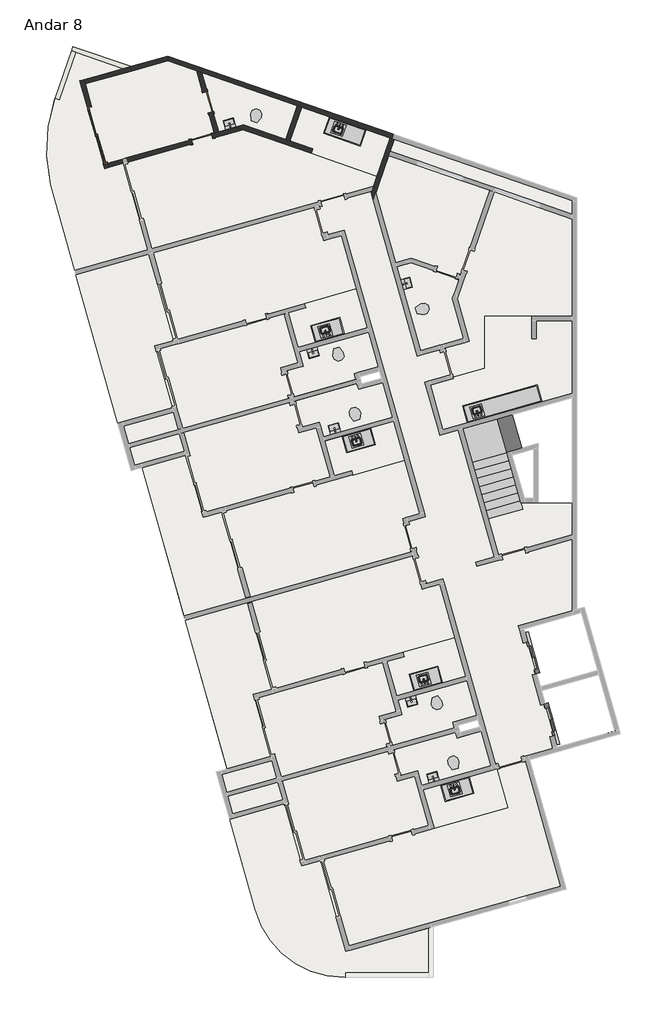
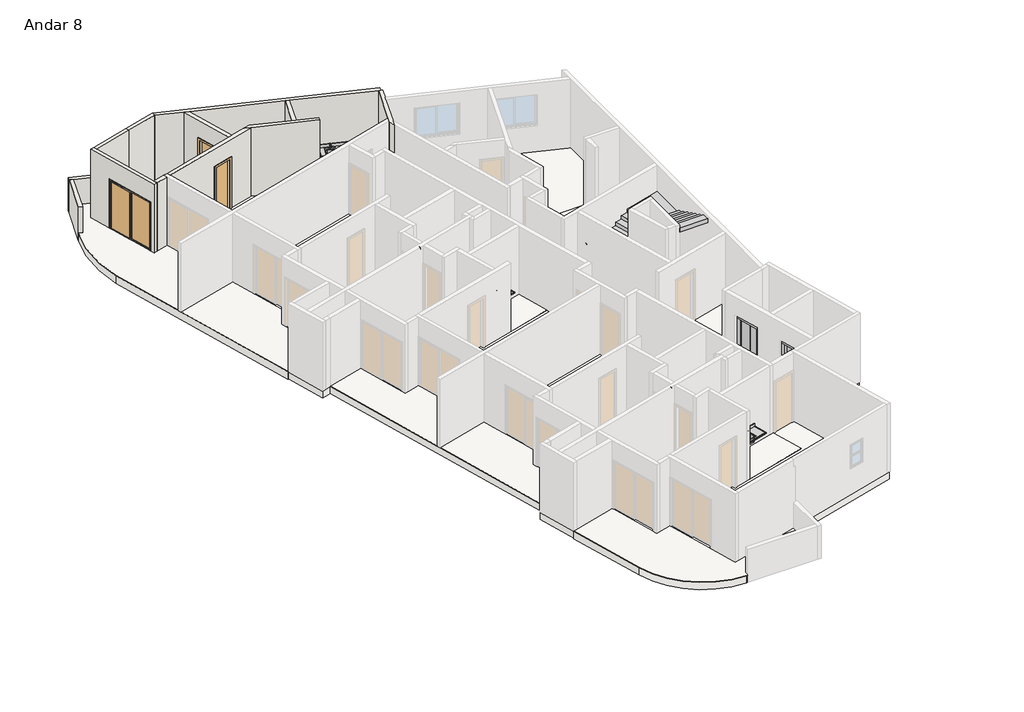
# One storey, part 3 of 3: 18 flow terminals, 18 slabs, 12 walls, 8 proxies, 3 doors, 1 stair flight.
"""IFC4 building model written with IfcOpenShell, lengths in millimetres."""

from ifc_helpers import new_model, si_unit, point, frame, frame_2d, origin, place, context, project, spatial, polyline, circle_curve, trimmed, segment, composite_curve, outline, extrude, faceted_brep, transform, mapped, element, save
from components import specialty_equipment_6c35da8b, specialty_equipment_77dfa124, rf_bancada_cozinha_rf_bancada_cozinha_340fef9f, rf_bancada_cozinha_rf_bancada_cozinha_cfb88ba1, rf_bancada_cozinha_rf_bancada_cozinha_2f873929, rf_bancada_cozinha_rf_bancada_cozinha_798ceddf, p3_70cm_ef4d15e3, p3_70cm_0a698c7c, p4_correr_200cm_eaaa0877, flow_terminal_cab7bae2, flow_terminal_3fb7dc42, flow_terminal_e42b9071, flow_terminal_c6e042c4, ap_01_creme_cr37_13e02e03, ap_01_creme_cr37_5ce6e54d

model = new_model("IFC4")

# Units and contexts
model_context = context("Model", 3, world=origin())
ifc_project = project(units=[si_unit("LENGTHUNIT", "METRE", prefix="MILLI")], contexts=[model_context])

# Site, building, storey
site = spatial("IfcSite", under=ifc_project)
building = spatial("IfcBuilding", under=site)
storey = spatial("IfcBuildingStorey", under=building, Name="Andar 8", Elevation=73950.0)

# Proxies
placement = place(None, origin())
specialty_equipment_shape = specialty_equipment_6c35da8b(model_context)
element("IfcBuildingElementProxy", 1, Name="Porta do elevador : Porta do elevador", ObjectType="Porta do elevador : Porta do elevador", at=placement, inside=storey, context=model_context, shape_type="MappedRepresentation", body=[
    mapped(specialty_equipment_shape, transform((-76594.4337486, 15747.4543727, 73950.0), x_axis=(0.27176796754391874, -0.9623628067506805, 0.0), y_axis=(0.9623628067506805, 0.27176796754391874, 0.0), z_axis=(0.0, 0.0, 1.0))),
])
specialty_equipment_2_shape = specialty_equipment_77dfa124(model_context)
element("IfcBuildingElementProxy", 2, Name="Porta do elevador : Porta do elevador", ObjectType="Porta do elevador : Porta do elevador", at=placement, inside=storey, context=model_context, shape_type="MappedRepresentation", body=[
    mapped(specialty_equipment_2_shape, transform((-75942.1906265, 13437.7836365, 73950.0), x_axis=(-0.27176796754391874, 0.9623628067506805, 0.0), y_axis=(-0.9623628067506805, -0.27176796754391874, 0.0), z_axis=(0.0, 0.0, 1.0))),
])
rf_bancada_cozinha_rf_bancada_cozinha_shape = rf_bancada_cozinha_rf_bancada_cozinha_340fef9f(model_context)
element("IfcBuildingElementProxy", 3, Name="RF_Bancada Cozinha : RF_Bancada Cozinha", ObjectType="RF_Bancada Cozinha : RF_Bancada Cozinha", at=placement, inside=storey, context=model_context, shape_type="MappedRepresentation", body=[
    mapped(rf_bancada_cozinha_rf_bancada_cozinha_shape, transform((-82760.548019, 26451.5820971, 74700.0), x_axis=(-0.9623628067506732, -0.27176796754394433, 0.0), y_axis=(0.27176796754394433, -0.9623628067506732, 0.0), z_axis=(0.0, 0.0, 1.0))),
])
element("IfcBuildingElementProxy", 4, Name="RF_Bancada Cozinha : RF_Bancada Cozinha", ObjectType="RF_Bancada Cozinha : RF_Bancada Cozinha", at=placement, inside=storey, context=model_context, shape_type="MappedRepresentation", body=[
    mapped(rf_bancada_cozinha_rf_bancada_cozinha_shape, transform((-79472.1556117, 14806.9921354, 74700.0), x_axis=(-0.962362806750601, -0.2717679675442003, 0.0), y_axis=(0.2717679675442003, -0.962362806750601, 0.0), z_axis=(0.0, 0.0, 1.0))),
])
rf_bancada_cozinha_rf_bancada_cozinha_2_shape = rf_bancada_cozinha_rf_bancada_cozinha_cfb88ba1(model_context)
element("IfcBuildingElementProxy", 5, Name="RF_Bancada Cozinha : RF_Bancada Cozinha", ObjectType="RF_Bancada Cozinha : RF_Bancada Cozinha", at=placement, inside=storey, context=model_context, shape_type="MappedRepresentation", body=[
    mapped(rf_bancada_cozinha_rf_bancada_cozinha_2_shape, transform((-81877.3021245, 23323.9029751, 74700.0), x_axis=(-0.9623628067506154, -0.27176796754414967, 0.0), y_axis=(0.27176796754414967, -0.9623628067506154, 0.0), z_axis=(0.0, 0.0, 1.0))),
])
element("IfcBuildingElementProxy", 6, Name="RF_Bancada Cozinha : RF_Bancada Cozinha", ObjectType="RF_Bancada Cozinha : RF_Bancada Cozinha", at=placement, inside=storey, context=model_context, shape_type="MappedRepresentation", body=[
    mapped(rf_bancada_cozinha_rf_bancada_cozinha_2_shape, transform((-78588.9097172, 11679.3130134, 74700.0), x_axis=(-0.9623628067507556, -0.27176796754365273, 0.0), y_axis=(0.27176796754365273, -0.9623628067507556, 0.0), z_axis=(0.0, 0.0, 1.0))),
])
rf_bancada_cozinha_rf_bancada_cozinha_3_shape = rf_bancada_cozinha_rf_bancada_cozinha_2f873929(model_context)
element("IfcBuildingElementProxy", 7, Name="RF_Bancada Cozinha : RF_Bancada Cozinha", ObjectType="RF_Bancada Cozinha : RF_Bancada Cozinha", at=placement, inside=storey, context=model_context, shape_type="MappedRepresentation", body=[
    mapped(rf_bancada_cozinha_rf_bancada_cozinha_3_shape, transform((-82030.0326121, 33293.9830661, 74700.0), x_axis=(-0.9449109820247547, 0.32732741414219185, 0.0), y_axis=(-0.32732741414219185, -0.9449109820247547, 0.0), z_axis=(0.0, 0.0, 1.0))),
])
rf_bancada_cozinha_rf_bancada_cozinha_4_shape = rf_bancada_cozinha_rf_bancada_cozinha_798ceddf(model_context)
element("IfcBuildingElementProxy", 8, Name="RF_Bancada Cozinha : RF_Bancada Cozinha", ObjectType="RF_Bancada Cozinha : RF_Bancada Cozinha", at=placement, inside=storey, context=model_context, shape_type="MappedRepresentation", body=[
    mapped(rf_bancada_cozinha_rf_bancada_cozinha_4_shape, transform((-76157.6622331, 24197.9763092, 74700.0), x_axis=(-0.9623628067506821, -0.27176796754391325, 0.0), y_axis=(0.27176796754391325, -0.9623628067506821, 0.0), z_axis=(0.0, 0.0, 1.0))),
])

# Doors
p3_70cm_shape = p3_70cm_ef4d15e3(model_context)
element("IfcDoor", 9, ObjectType="M_Folha única1 : P3 - 70CM", at=placement, inside=storey, context=model_context, shape_type="MappedRepresentation", body=[
    mapped(p3_70cm_shape, transform((-87513.806232, 32980.5300491, 73950.0), x_axis=(0.9623628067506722, 0.2717679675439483, 0.0), y_axis=(-0.2717679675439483, 0.9623628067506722, 0.0), z_axis=(0.0, 0.0, 1.0))),
])
p3_70cm_2_shape = p3_70cm_0a698c7c(model_context)
element("IfcDoor", 10, ObjectType="M_Folha única1 : P3 - 70CM", at=placement, inside=storey, context=model_context, shape_type="MappedRepresentation", body=[
    mapped(p3_70cm_2_shape, transform((-87314.304722, 34205.8663896, 73950.0), x_axis=(-0.2717679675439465, 0.9623628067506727, 0.0), y_axis=(-0.9623628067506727, -0.2717679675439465, 0.0), z_axis=(0.0, 0.0, 1.0))),
])
p4_correr_200cm_shape = p4_correr_200cm_eaaa0877(model_context)
element("IfcDoor", 11, ObjectType="Porta de correr dupla envidraçada sem revestimento : P4 - CORRER - 200CM", at=placement, inside=storey, context=model_context, shape_type="MappedRepresentation", body=[
    mapped(p4_correr_200cm_shape, transform((-91005.8131296, 33111.4415743, 73950.0), x_axis=(0.2717679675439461, -0.9623628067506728, 0.0), y_axis=(0.9623628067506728, 0.2717679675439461, 0.0), z_axis=(0.0, 0.0, 1.0))),
])

# Flow terminals
flow_terminal_shape = flow_terminal_cab7bae2(model_context)
element("IfcFlowTerminal", 12, ObjectType="RF_Pias : Pia da Bancada", at=placement, inside=storey, context=model_context, shape_type="MappedRepresentation", body=[
    mapped(flow_terminal_shape, transform((-83380.5102831, 26570.4992214, 73802.9), x_axis=(-0.9623628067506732, -0.27176796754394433, 0.0), y_axis=(0.27176796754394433, -0.9623628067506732, 0.0), z_axis=(0.0, 0.0, 1.0))),
])
element("IfcFlowTerminal", 13, ObjectType="RF_Pias : Pia da Bancada", at=placement, inside=storey, context=model_context, shape_type="MappedRepresentation", body=[
    mapped(flow_terminal_shape, transform((-80092.1178758, 14925.9092597, 73802.9), x_axis=(-0.962362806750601, -0.2717679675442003, 0.0), y_axis=(0.2717679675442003, -0.962362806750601, 0.0), z_axis=(0.0, 0.0, 1.0))),
])
element("IfcFlowTerminal", 14, ObjectType="RF_Pias : Pia da Bancada", at=placement, inside=storey, context=model_context, shape_type="MappedRepresentation", body=[
    mapped(flow_terminal_shape, transform((-78306.8185143, 23885.0542694, 73802.9), x_axis=(-0.9623628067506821, -0.27176796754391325, 0.0), y_axis=(0.27176796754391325, -0.9623628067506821, 0.0), z_axis=(0.0, 0.0, 1.0))),
])
flow_terminal_2_shape = flow_terminal_3fb7dc42(model_context)
element("IfcFlowTerminal", 15, ObjectType="Deca_Cuba de Apoio Retangular_L7300 : L.7300.17_Branco Gelo GE17", at=placement, inside=storey, context=model_context, shape_type="MappedRepresentation", body=[
    mapped(flow_terminal_2_shape, transform((-83090.0822283, 23308.7374016, 74700.0), x_axis=(-0.9623628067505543, -0.2717679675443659, 0.0), y_axis=(0.2717679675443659, -0.9623628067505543, 0.0), z_axis=(0.0, 0.0, 1.0))),
])
element("IfcFlowTerminal", 16, ObjectType="Deca_Cuba de Apoio Retangular_L7300 : L.7300.17_Branco Gelo GE17", at=placement, inside=storey, context=model_context, shape_type="MappedRepresentation", body=[
    mapped(flow_terminal_2_shape, transform((-79801.689821, 11664.1474399, 74700.0), x_axis=(-0.9623628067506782, -0.2717679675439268, 0.0), y_axis=(0.2717679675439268, -0.9623628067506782, 0.0), z_axis=(0.0, 0.0, 1.0))),
])
element("IfcFlowTerminal", 17, ObjectType="Deca_Cuba de Apoio Retangular_L7300 : L.7300.17_Branco Gelo GE17", at=placement, inside=storey, context=model_context, shape_type="MappedRepresentation", body=[
    mapped(flow_terminal_2_shape, transform((-80677.0991462, 28154.8020678, 74700.0), x_axis=(-0.2717679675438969, 0.9623628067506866, 0.0), y_axis=(-0.9623628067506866, -0.2717679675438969, 0.0), z_axis=(0.0, 0.0, 1.0))),
])
element("IfcFlowTerminal", 18, ObjectType="Deca_Cuba de Apoio Retangular_L7300 : L.7300.17_Branco Gelo GE17", at=placement, inside=storey, context=model_context, shape_type="MappedRepresentation", body=[
    mapped(flow_terminal_2_shape, transform((-86597.4204814, 33488.7004496, 74700.0), x_axis=(-0.9623628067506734, -0.27176796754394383, 0.0), y_axis=(0.27176796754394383, -0.9623628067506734, 0.0), z_axis=(0.0, 0.0, 1.0))),
])
flow_terminal_3_shape = flow_terminal_e42b9071(model_context)
element("IfcFlowTerminal", 19, ObjectType="Deca_Cuba de Apoio Retangular_L7300 : L.7300.17_Branco Gelo GE17", at=placement, inside=storey, context=model_context, shape_type="MappedRepresentation", body=[
    mapped(flow_terminal_3_shape, transform((-83802.1143033, 25830.1279553, 74700.0), x_axis=(-0.9623628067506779, -0.2717679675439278, 0.0), y_axis=(0.2717679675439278, -0.9623628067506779, 0.0), z_axis=(0.0, 0.0, 1.0))),
])
element("IfcFlowTerminal", 20, ObjectType="Deca_Cuba de Apoio Retangular_L7300 : L.7300.17_Branco Gelo GE17", at=placement, inside=storey, context=model_context, shape_type="MappedRepresentation", body=[
    mapped(flow_terminal_3_shape, transform((-80513.721896, 14185.5379936, 74700.0), x_axis=(-0.962362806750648, -0.27176796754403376, 0.0), y_axis=(0.27176796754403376, -0.962362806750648, 0.0), z_axis=(0.0, 0.0, 1.0))),
])
flow_terminal_4_shape = flow_terminal_c6e042c4(model_context)
element("IfcFlowTerminal", 21, ObjectType="RF_Pias : Pia da Bancada", at=placement, inside=storey, context=model_context, shape_type="MappedRepresentation", body=[
    mapped(flow_terminal_4_shape, transform((-82343.483233, 22898.2626745, 73802.9), x_axis=(-0.9623628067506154, -0.27176796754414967, 0.0), y_axis=(0.27176796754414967, -0.9623628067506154, 0.0), z_axis=(0.0, 0.0, 1.0))),
])
element("IfcFlowTerminal", 22, ObjectType="RF_Pias : Pia da Bancada", at=placement, inside=storey, context=model_context, shape_type="MappedRepresentation", body=[
    mapped(flow_terminal_4_shape, transform((-79055.0908257, 11253.6727129, 73802.9), x_axis=(-0.9623628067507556, -0.27176796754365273, 0.0), y_axis=(0.27176796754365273, -0.9623628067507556, 0.0), z_axis=(0.0, 0.0, 1.0))),
])
element("IfcFlowTerminal", 23, ObjectType="RF_Pias : Pia da Bancada", at=placement, inside=storey, context=model_context, shape_type="MappedRepresentation", body=[
    mapped(flow_terminal_4_shape, transform((-82939.3392028, 33309.5545572, 73802.9), x_axis=(-0.9449109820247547, 0.32732741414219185, 0.0), y_axis=(-0.32732741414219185, -0.9449109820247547, 0.0), z_axis=(0.0, 0.0, 1.0))),
])
ap_01_creme_cr37_shape = ap_01_creme_cr37_13e02e03(model_context)
element("IfcFlowTerminal", 24, ObjectType="Deca_Shared_Assento_P.900 : AP.01_Creme CR37", at=placement, inside=storey, context=model_context, shape_type="MappedRepresentation", body=[
    mapped(ap_01_creme_cr37_shape, transform((-83017.5301151, 25983.4740486, 74337.8723674), x_axis=(0.9623628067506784, 0.2717679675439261, 0.0), y_axis=(0.0, 0.0, 1.0), z_axis=(0.2717679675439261, -0.9623628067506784, 0.0))),
])
element("IfcFlowTerminal", 25, ObjectType="Deca_Shared_Assento_P.900 : AP.01_Creme CR37", at=placement, inside=storey, context=model_context, shape_type="MappedRepresentation", body=[
    mapped(ap_01_creme_cr37_shape, transform((-79729.1377078, 14338.8840869, 74337.8723674), x_axis=(0.962362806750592, 0.2717679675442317, 0.0), y_axis=(0.0, 0.0, 1.0), z_axis=(0.2717679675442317, -0.962362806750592, 0.0))),
])
element("IfcFlowTerminal", 26, ObjectType="Deca_Shared_Assento_P.900 : AP.01_Creme CR37", at=placement, inside=storey, context=model_context, shape_type="MappedRepresentation", body=[
    mapped(ap_01_creme_cr37_shape, transform((-80349.5164684, 27236.3600819, 74337.8723674), x_axis=(-0.271767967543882, 0.9623628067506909, 0.0), y_axis=(0.0, 0.0, 1.0), z_axis=(0.9623628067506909, 0.271767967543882, 0.0))),
])
element("IfcFlowTerminal", 27, ObjectType="Deca_Shared_Assento_P.900 : AP.01_Creme CR37", at=placement, inside=storey, context=model_context, shape_type="MappedRepresentation", body=[
    mapped(ap_01_creme_cr37_shape, transform((-85777.8760768, 33566.4131555, 74337.8723674), x_axis=(-0.9449109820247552, 0.3273274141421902, 0.0), y_axis=(0.0, 0.0, 1.0000000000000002), z_axis=(0.3273274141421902, 0.9449109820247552, 0.0))),
])
ap_01_creme_cr37_2_shape = ap_01_creme_cr37_5ce6e54d(model_context)
element("IfcFlowTerminal", 28, ObjectType="Deca_Shared_Assento_P.900 : AP.01_Creme CR37", at=placement, inside=storey, context=model_context, shape_type="MappedRepresentation", body=[
    mapped(ap_01_creme_cr37_2_shape, transform((-82341.1813229, 23588.4422577, 74337.8723674), x_axis=(0.9623628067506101, 0.27176796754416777, 0.0), y_axis=(0.0, 0.0, -1.0), z_axis=(-0.27176796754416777, 0.9623628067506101, 0.0))),
])
element("IfcFlowTerminal", 29, ObjectType="Deca_Shared_Assento_P.900 : AP.01_Creme CR37", at=placement, inside=storey, context=model_context, shape_type="MappedRepresentation", body=[
    mapped(ap_01_creme_cr37_2_shape, transform((-79052.7889156, 11943.852296, 74337.8723674), x_axis=(0.9623628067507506, 0.2717679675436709, 0.0), y_axis=(0.0, 0.0, -1.0000000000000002), z_axis=(-0.2717679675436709, 0.9623628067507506, 0.0))),
])

# Slabs
element("IfcSlab", 30, ObjectType="TZ_Piso de Áreas Molhadas", at=placement, inside=storey, context=model_context, shape_type="SweptSolid", body=[
    extrude(outline(composite_curve([segment(polyline([(-90765.4571774, 31984.341749), (-90143.7425806, 32159.9118263), (-89328.438678, 29272.823406), (-91766.0080564, 28584.4621444), (-92573.2320087, 31442.9384962)]), True, "CONTINUOUS"), segment(trimmed(circle_curve(frame_2d((-87414.5556743, 32622.5665107)), 5291.829908), [point((-92573.2320087, 31442.9384962))], [point((-92422.0860726, 34333.7366032))], False, "CARTESIAN"), True, "CONTINUOUS"), segment(polyline([(-92422.0860726, 34333.7366032), (-92280.2794148, 34284.6132387), (-91729.7010481, 35873.9929322), (-90151.0501028, 35327.1311202), (-91594.3494784, 34919.5483093), (-90765.4571774, 31984.341749)]), True, "CONTINUOUS")], self_intersect=False)), frame((0.0, 0.0, 73950.0), z_axis=(0.0, 0.0, 1.0), x_axis=(1.0, 0.0, 0.0)), (0.0, 0.0, 1.0), 20.0),
])
element("IfcSlab", 31, ObjectType="TZ_Piso de Áreas Molhadas", at=placement, inside=storey, context=model_context, shape_type="SweptSolid", body=[
    extrude(outline(polyline([(-88472.3695802, 26241.3805647), (-89094.084177, 26065.8104874), (-88509.7830468, 23996.7304529), (-90325.6378284, 23483.9392686), (-91725.2428613, 28440.1077234), (-89287.6734828, 29128.468985), (-88472.3695802, 26241.3805647)])), frame((0.0, 0.0, 73950.0), z_axis=(0.0, 0.0, 1.0), x_axis=(1.0, 0.0, 0.0)), (0.0, 0.0, 1.0), 20.0),
])
element("IfcSlab", 32, ObjectType="TZ_Piso de Áreas Molhadas", at=placement, inside=storey, context=model_context, shape_type="SweptSolid", body=[
    extrude(outline(polyline([(-86855.3501733, 20515.3218645), (-86040.0462707, 17628.2334443), (-88109.1263052, 17043.9323141), (-89508.731338, 22000.1007688), (-88061.3659003, 22408.8318218), (-87477.0647701, 20339.7517872), (-86855.3501733, 20515.3218645)])), frame((0.0, 0.0, 73950.0), z_axis=(0.0, 0.0, 1.0), x_axis=(1.0, 0.0, 0.0)), (0.0, 0.0, 1.0), 20.0),
])
element("IfcSlab", 33, ObjectType="TZ_Piso de Áreas Molhadas", at=placement, inside=storey, context=model_context, shape_type="SweptSolid", body=[
    extrude(outline(polyline([(-78926.5637691, 28284.9851582), (-79146.9727346, 27648.7205404), (-78771.1333302, 26317.8283554), (-80214.6775403, 25910.176404), (-81004.3851492, 28706.6252933), (-80530.2499593, 28840.5194505), (-78926.5637691, 28284.9851582)])), frame((0.0, 0.0, 73950.0), z_axis=(0.0, 0.0, 1.0), x_axis=(1.0, 0.0, 0.0)), (0.0, 0.0, 1.0), 20.0),
])
element("IfcSlab", 34, ObjectType="TZ_Piso de Áreas Molhadas", at=placement, inside=storey, context=model_context, shape_type="SweptSolid", body=[
    extrude(outline(polyline([(-78070.9150345, 27060.8243598), (-76493.6479314, 27060.8243598), (-76493.6479314, 26310.8243598), (-76343.6479314, 26310.8243598), (-76343.6479314, 26910.8243598), (-75147.8282189, 26910.8243598), (-75147.8282189, 24483.4871675), (-79467.3156296, 23263.6786855), (-79888.5559793, 24755.3410359), (-79127.7601479, 24970.1871785), (-79141.3485461, 25018.3053183), (-78070.9150345, 25320.5920836), (-78070.9150345, 27060.8243598)])), frame((0.0, 0.0, 73950.0), z_axis=(0.0, 0.0, 1.0), x_axis=(1.0, 0.0, 0.0)), (0.0, 0.0, 1.0), 20.0),
])
element("IfcSlab", 35, ObjectType="TZ_Piso de Áreas Molhadas", at=placement, inside=storey, context=model_context, shape_type="SweptSolid", body=[
    extrude(outline(polyline([(-84719.4810559, 32955.6762822), (-86137.8721095, 33447.0223292), (-86956.7711455, 33215.7680402), (-87515.4733556, 35194.1992432), (-84326.6881589, 34089.5694606), (-84719.4810559, 32955.6762822)])), frame((0.0, 0.0, 73950.0), z_axis=(0.0, 0.0, 1.0), x_axis=(1.0, 0.0, 0.0)), (0.0, 0.0, 1.0), 20.0),
])
element("IfcSlab", 36, ObjectType="TZ_Piso de Áreas Molhadas", at=placement, inside=storey, context=model_context, shape_type="SweptSolid", body=[
    extrude(outline(polyline([(-84577.7444086, 32906.57717), (-84184.9515116, 34040.4703485), (-81226.8582774, 33015.7547641), (-81668.7502865, 31740.1249383), (-83870.9147351, 32502.9785914), (-83821.815623, 32644.7152387), (-84577.7444086, 32906.57717)])), frame((0.0, 0.0, 73950.0), z_axis=(0.0, 0.0, 1.0), x_axis=(1.0, 0.0, 0.0)), (0.0, 0.0, 1.0), 20.0),
])
element("IfcSlab", 37, ObjectType="TZ_Piso de Áreas Molhadas", at=placement, inside=storey, context=model_context, shape_type="SweptSolid", body=[
    extrude(outline(polyline([(-81949.8925784, 26524.6420501), (-81623.7710174, 25369.806682), (-82432.1557751, 25141.5215893), (-82377.8021816, 24949.0490279), (-84456.5058441, 24362.030218), (-84701.0970149, 25228.1567441), (-84123.6793309, 25391.2175246), (-84259.5633146, 25872.398928), (-81949.8925784, 26524.6420501)])), frame((0.0, 0.0, 73950.0), z_axis=(0.0, 0.0, 1.0), x_axis=(1.0, 0.0, 0.0)), (0.0, 0.0, 1.0), 20.0),
])
element("IfcSlab", 38, ObjectType="TZ_Piso de Áreas Molhadas", at=placement, inside=storey, context=model_context, shape_type="SweptSolid", body=[
    extrude(outline(polyline([(-84089.7975819, 27479.0039186), (-82357.5445298, 27968.1862602), (-81990.6577736, 26668.9964711), (-84300.3285098, 26016.753349), (-84626.4500708, 27171.5887171), (-84049.0323868, 27334.6494976), (-84089.7975819, 27479.0039186)])), frame((0.0, 0.0, 73950.0), z_axis=(0.0, 0.0, 1.0), x_axis=(1.0, 0.0, 0.0)), (0.0, 0.0, 1.0), 20.0),
])
element("IfcSlab", 39, ObjectType="TZ_Piso de Áreas Molhadas", at=placement, inside=storey, context=model_context, shape_type="SweptSolid", body=[
    extrude(outline(polyline([(-84171.1494782, 23351.5492709), (-84415.740649, 24217.675797), (-82337.0369864, 24804.6946069), (-82282.6833929, 24612.2220455), (-81474.2986352, 24840.5071383), (-81148.1770742, 23685.6717702), (-83457.8478104, 23033.4286481), (-83593.7317942, 23514.6100514), (-84171.1494782, 23351.5492709)])), frame((0.0, 0.0, 73950.0), z_axis=(0.0, 0.0, 1.0), x_axis=(1.0, 0.0, 0.0)), (0.0, 0.0, 1.0), 20.0),
])
element("IfcSlab", 40, ObjectType="TZ_Piso de Áreas Molhadas", at=placement, inside=storey, context=model_context, shape_type="SweptSolid", body=[
    extrude(outline(composite_curve([segment(polyline([(-79945.4990038, 5119.4122055), (-82713.5540687, 5119.4122055), (-82713.5540687, 4969.4122055), (-82751.3896972, 4969.4122055)]), True, "CONTINUOUS"), segment(trimmed(circle_curve(frame_2d((-82751.3896972, 8069.4122055)), 3100.0), [point((-82751.3896972, 4969.4122055))], [point((-85734.7143981, 7226.9315061))], False, "CARTESIAN"), True, "CONTINUOUS"), segment(polyline([(-85734.7143981, 7226.9315061), (-86588.8282733, 10251.4506708), (-84772.9735093, 10764.2419177), (-84188.6722855, 8695.1618243), (-83566.957766, 8870.7319029), (-82710.8885369, 5839.2889958), (-79945.4990038, 6620.2256515), (-79945.4990038, 5119.4122055)]), True, "CONTINUOUS")], self_intersect=False)), frame((0.0, 0.0, 73950.0), z_axis=(0.0, 0.0, 1.0), x_axis=(1.0, 0.0, 0.0)), (0.0, 0.0, 1.0), 20.0),
])
element("IfcSlab", 41, ObjectType="TZ_Piso de Áreas Molhadas", at=placement, inside=storey, context=model_context, shape_type="SweptSolid", body=[
    extrude(outline(polyline([(-78185.906228, 13195.9171766), (-77859.7846669, 12041.0818085), (-80169.4554031, 11388.8386864), (-80305.3393869, 11870.0200898), (-80882.7570709, 11706.9593092), (-81127.3482417, 12573.0858353), (-79048.6445791, 13160.1046452), (-78994.2909856, 12967.6320839), (-78185.906228, 13195.9171766)])), frame((0.0, 0.0, 73950.0), z_axis=(0.0, 0.0, 1.0), x_axis=(1.0, 0.0, 0.0)), (0.0, 0.0, 1.0), 20.0),
])
element("IfcSlab", 42, ObjectType="TZ_Piso de Áreas Molhadas", at=placement, inside=storey, context=model_context, shape_type="SweptSolid", body=[
    extrude(outline(polyline([(-77307.7782946, 10638.3027935), (-79761.8034518, 9945.2944763), (-80128.690208, 11244.4842654), (-77674.6650508, 11937.4925826), (-77307.7782946, 10638.3027935)])), frame((0.0, 0.0, 73950.0), z_axis=(0.0, 0.0, 1.0), x_axis=(1.0, 0.0, 0.0)), (0.0, 0.0, 1.0), 20.0),
])
element("IfcSlab", 43, ObjectType="TZ_Piso de Áreas Molhadas", at=placement, inside=storey, context=model_context, shape_type="SweptSolid", body=[
    extrude(outline(polyline([(-81107.9410005, 23543.1910314), (-80740.5251229, 22242.1275601), (-82472.778175, 21752.9452185), (-82513.5433702, 21897.2996395), (-83090.9610542, 21734.238859), (-83418.0192411, 22888.8089065), (-81107.9410005, 23543.1910314)])), frame((0.0, 0.0, 73950.0), z_axis=(0.0, 0.0, 1.0), x_axis=(1.0, 0.0, 0.0)), (0.0, 0.0, 1.0), 20.0),
])
element("IfcSlab", 44, ObjectType="TZ_Piso de Áreas Molhadas", at=placement, inside=storey, context=model_context, shape_type="SweptSolid", body=[
    extrude(outline(polyline([(-85183.9771729, 14596.790603), (-85805.6917697, 14421.2205257), (-85221.3906395, 12352.1404912), (-86668.7560772, 11943.4094383), (-88068.36111, 16899.5778931), (-85999.2810755, 17483.8790233), (-85183.9771729, 14596.790603)])), frame((0.0, 0.0, 73950.0), z_axis=(0.0, 0.0, 1.0), x_axis=(1.0, 0.0, 0.0)), (0.0, 0.0, 1.0), 20.0),
])
element("IfcSlab", 45, ObjectType="TZ_Piso de Áreas Molhadas", at=placement, inside=storey, context=model_context, shape_type="SweptSolid", body=[
    extrude(outline(polyline([(-81412.7046076, 13583.5667824), (-80835.2869236, 13746.6275629), (-80971.1709074, 14227.8089663), (-78661.5001712, 14880.0520884), (-78335.3786101, 13725.2167203), (-79143.7633678, 13496.9316276), (-79089.4097743, 13304.4590662), (-81168.1134368, 12717.4402563), (-81412.7046076, 13583.5667824)])), frame((0.0, 0.0, 73950.0), z_axis=(0.0, 0.0, 1.0), x_axis=(1.0, 0.0, 0.0)), (0.0, 0.0, 1.0), 20.0),
])
element("IfcSlab", 46, ObjectType="TZ_Piso de Áreas Molhadas", at=placement, inside=storey, context=model_context, shape_type="SweptSolid", body=[
    extrude(outline(polyline([(-78701.7362448, 15022.5328272), (-81012.8731576, 14371.8995868), (-81338.0576635, 15526.9987554), (-80760.6399795, 15690.059536), (-80801.4051746, 15834.413957), (-79069.1521225, 16323.5962985), (-78701.7362448, 15022.5328272)])), frame((0.0, 0.0, 73950.0), z_axis=(0.0, 0.0, 1.0), x_axis=(1.0, 0.0, 0.0)), (0.0, 0.0, 1.0), 20.0),
])
element("IfcSlab", 47, ObjectType="TZ_Laje 30cm", at=placement, inside=storey, context=model_context, shape_type="SweptSolid", body=[
    extrude(outline(composite_curve([segment(polyline([(-82713.5540687, 4969.4122055), (-82751.3896972, 4969.4122055)]), True, "CONTINUOUS"), segment(trimmed(circle_curve(frame_2d((-82751.3896972, 8069.4122055)), 3100.0), [point((-82751.3896972, 4969.4122055))], [point((-85734.7143981, 7226.9315061))], False, "CARTESIAN"), True, "CONTINUOUS"), segment(polyline([(-85734.7143981, 7226.9315061), (-86588.8282747, 10251.4506758), (-86574.3928326, 10255.5271953), (-87018.7334595, 11828.9903844), (-86664.6795577, 11928.9739962), (-89512.8078575, 22014.5362109), (-89866.8617594, 21914.5525991), (-90311.2023863, 23488.0157882), (-90325.6378284, 23483.9392686), (-92573.2320087, 31442.9384962)]), True, "CONTINUOUS"), segment(trimmed(circle_curve(frame_2d((-87414.5556743, 32622.5665107)), 5291.829908), [point((-92573.2320087, 31442.9384962))], [point((-92426.4466323, 34320.9224218))], False, "CARTESIAN"), True, "CONTINUOUS"), segment(polyline([(-92426.4466323, 34320.9224218), (-92422.0160621, 34333.7123509), (-92403.1178425, 34327.1658026), (-91809.986912, 36039.3839237), (-89899.2062586, 35377.468778), (-88658.6666899, 35727.7929124), (-75017.8282189, 31002.4584964), (-75017.8282189, 17238.3098681), (-74750.7083414, 17313.7436086), (-73565.8000029, 13117.8417711), (-76592.4310301, 12263.1315132), (-75369.6745845, 7933.2050117), (-79815.4990038, 6677.7193903), (-79815.4990038, 4989.4122055), (-82713.5540687, 4989.4122055), (-82713.5540687, 4969.4122055)]), True, "CONTINUOUS")], self_intersect=False), holes=[polyline([(-81583.0058223, 25225.452261), (-82247.0361589, 25037.9323634), (-82179.094167, 24797.3416617), (-81515.0638304, 24984.8615593), (-81583.0058223, 25225.452261)]), polyline([(-78294.613415, 13580.8622993), (-78958.6437516, 13393.3424017), (-78890.7017597, 13152.7517), (-78226.6714231, 13340.2715976), (-78294.613415, 13580.8622993)]), polyline([(-74840.4856705, 17153.3066079), (-76760.3994699, 16611.1295126), (-76221.8794944, 14704.1660107), (-75646.150803, 12665.442005), (-73726.2370035, 13207.6191002), (-74270.7319215, 15135.7405865), (-74840.4856705, 17153.3066079)]), polyline([(-77952.9130698, 20291.1915783), (-76801.2963825, 20616.4041949), (-76858.5413412, 20819.1154254), (-75147.8282189, 20819.1154254), (-75147.8282189, 24343.0530162), (-78807.9060206, 23309.4595541), (-77952.9130698, 20291.1915783)])]), frame((0.0, 0.0, 73650.0), z_axis=(0.0, 0.0, 1.0), x_axis=(1.0, 0.0, 0.0)), (0.0, 0.0, 1.0), 300.0),
])

# Stair flight
element("IfcStairFlight", 48, ObjectType="Profundidade de 150mm", at=placement, inside=storey, context=model_context, shape_type="Brep", body=[
    faceted_brep([(-78029.0944782, 20560.1246789, 74088.0952381), (-77952.7808761, 20290.7249124, 74088.0952381), (-76802.2714069, 20616.6328483, 74088.0952381), (-76878.3664628, 20886.0945229, 74088.0952381), (-78029.0944782, 20560.1246789, 73950.0), (-77952.7808761, 20290.7249124, 73950.0), (-76802.2714069, 20616.6328483, 73950.0), (-76878.3664628, 20886.0945229, 73950.0), (-78105.4080802, 20829.5244453, 74226.1904762), (-78029.0944782, 20560.1246789, 74226.1904762), (-76878.3664628, 20886.0945229, 74226.1904762), (-76954.4615188, 21155.5561975, 74226.1904762), (-78105.4080802, 20829.5244453, 74058.939228), (-78045.2065482, 20617.0029783, 73950.0), (-76894.4323913, 20942.985893, 73950.0), (-76954.4615188, 21155.5561975, 74058.939228), (-78181.7216823, 21098.9242117, 74364.2857143), (-78105.4080802, 20829.5244453, 74364.2857143), (-76954.4615188, 21155.5561975, 74364.2857143), (-77030.5565747, 21425.017872, 74364.2857143), (-78181.7216823, 21098.9242117, 74197.0344661), (-77030.5565747, 21425.017872, 74197.0344661), (-78258.0352843, 21368.3239781, 74502.3809524), (-78181.7216823, 21098.9242117, 74502.3809524), (-77030.5565747, 21425.017872, 74502.3809524), (-77106.6516307, 21694.4795466, 74502.3809524), (-78258.0352843, 21368.3239781, 74335.1297042), (-77106.6516307, 21694.4795466, 74335.1297042), (-78334.3488864, 21637.7237445, 74640.4761905), (-78258.0352843, 21368.3239781, 74640.4761905), (-77106.6516307, 21694.4795466, 74640.4761905), (-77182.7466866, 21963.9412211, 74640.4761905), (-78334.3488864, 21637.7237445, 74473.2249423), (-77182.7466866, 21963.9412211, 74473.2249423), (-78410.6624885, 21907.1235109, 74778.5714286), (-78334.3488864, 21637.7237445, 74778.5714286), (-77182.7466866, 21963.9412211, 74778.5714286), (-77258.8417426, 22233.4028957, 74778.5714286), (-78410.6624885, 21907.1235109, 74611.3201804), (-77258.8417426, 22233.4028957, 74611.3201804), (-78486.9760905, 22176.5232773, 74916.6666667), (-78410.6624885, 21907.1235109, 74916.6666667), (-77258.8417426, 22233.4028957, 74916.6666667), (-77334.9367985, 22502.8645702, 74916.6666667), (-78486.9760905, 22176.5232773, 74749.4154185), (-77334.9367985, 22502.8645702, 74749.4154185), (-77650.6473278, 23620.8332322, 75054.7619048), (-78803.8582924, 23295.1703972, 75054.7619048), (-78572.8230038, 22479.5772253, 75054.7619048), (-78486.9760905, 22176.5232773, 75054.7619048), (-77334.9367985, 22502.8645702, 75054.7619048), (-77337.6544782, 22512.4881983, 75054.7619048), (-77650.6473278, 23620.8332322, 74904.7619048), (-78803.8582924, 23295.1703972, 74904.7619048), (-78572.8230038, 22479.5772253, 74904.7619048), (-77420.5378643, 22805.9881601, 74904.7619048), (-77337.6544782, 22512.4881983, 74904.7619048), (-77650.6473278, 23620.8332322, 75192.8571429), (-77337.6544782, 22512.4881983, 75192.8571429), (-77303.5536842, 22522.118146, 75192.8571429), (-77083.6709973, 22584.2122653, 75192.8571429), (-77396.6638468, 23692.5572992, 75192.8571429), (-77616.5465338, 23630.4631799, 75192.8571429), (-77396.6638468, 23692.5572992, 75019.0904432), (-77616.5465338, 23630.4631799, 74904.7619048), (-77303.5536842, 22522.118146, 74904.7619048), (-77083.6709973, 22584.2122653, 75019.0904432), (-77127.202261, 23768.6523301, 75330.952381), (-77396.6638468, 23692.5572992, 75330.952381), (-77083.6709973, 22584.2122653, 75330.952381), (-76814.2094114, 22660.3072962, 75330.952381), (-77127.202261, 23768.6523301, 75159.1976509), (-76814.2094114, 22660.3072962, 75159.1976509), (-76857.7406751, 23844.747361, 75469.047619), (-77127.202261, 23768.6523301, 75469.047619), (-76814.2094114, 22660.3072962, 75469.047619), (-76544.7478255, 22736.4023271, 75469.047619), (-76857.7406751, 23844.747361, 75299.3048586), (-76544.7478255, 22736.4023271, 75299.3048586), (-76588.2790892, 23920.842392, 75607.1428571), (-76857.7406751, 23844.747361, 75607.1428571), (-76544.7478255, 22736.4023271, 75607.1428571), (-76275.2862396, 22812.497358, 75607.1428571), (-76588.2790892, 23920.842392, 75439.4120663), (-75975.593386, 22897.1295956, 75595.2380952), (-76275.2862396, 22812.497358, 75595.2380952), (-75147.8282189, 22779.1154254, 75745.2380952), (-75147.8282189, 24327.6207947, 75745.2380952), (-76288.5862355, 24005.4746296, 75745.2380952), (-76588.2790892, 23920.842392, 75745.2380952), (-76275.2862396, 22812.497358, 75745.2380952), (-76275.2862396, 22779.1154254, 75745.2380952), (-75147.8282189, 22779.1154254, 75595.2380952), (-75147.8282189, 24327.6207947, 75595.2380952), (-76288.5862355, 24005.4746296, 75595.2380952), (-76275.2862396, 22779.1154254, 75595.2380952), (-75147.8282189, 22779.1154254, 75883.3333333), (-76275.2862396, 22779.1154254, 75883.3333333), (-76275.2862396, 22744.1370326, 75883.3333333), (-76275.2862396, 22499.1154254, 75883.3333333), (-75147.8282189, 22499.1154254, 75883.3333333), (-75147.8282189, 22744.1370326, 75883.3333333), (-75147.8282189, 22499.1154254, 75716.0820852), (-75147.8282189, 22744.1370326, 75595.2380952), (-76275.2862396, 22744.1370326, 75595.2380952), (-76275.2862396, 22499.1154254, 75716.0820852), (-75147.8282189, 22219.1154254, 76021.4285714), (-75147.8282189, 22499.1154254, 76021.4285714), (-76275.2862396, 22499.1154254, 76021.4285714), (-76275.2862396, 22219.1154254, 76021.4285714), (-75147.8282189, 22219.1154254, 75854.1773233), (-76275.2862396, 22219.1154254, 75854.1773233), (-75147.8282189, 21939.1154254, 76159.5238095), (-75147.8282189, 22219.1154254, 76159.5238095), (-76275.2862396, 22219.1154254, 76159.5238095), (-76275.2862396, 21939.1154254, 76159.5238095), (-75147.8282189, 21939.1154254, 75992.2725614), (-76275.2862396, 21939.1154254, 75992.2725614), (-75147.8282189, 21659.1154254, 76297.6190476), (-75147.8282189, 21939.1154254, 76297.6190476), (-76275.2862396, 21939.1154254, 76297.6190476), (-76275.2862396, 21659.1154254, 76297.6190476), (-75147.8282189, 21659.1154254, 76130.3677995), (-76275.2862396, 21659.1154254, 76130.3677995), (-75147.8282189, 21379.1154254, 76435.7142857), (-75147.8282189, 21659.1154254, 76435.7142857), (-76275.2862396, 21659.1154254, 76435.7142857), (-76275.2862396, 21379.1154254, 76435.7142857), (-75147.8282189, 21379.1154254, 76268.4630376), (-76275.2862396, 21379.1154254, 76268.4630376), (-75147.8282189, 21099.1154254, 76573.8095238), (-75147.8282189, 21379.1154254, 76573.8095238), (-76275.2862396, 21379.1154254, 76573.8095238), (-76275.2862396, 21099.1154254, 76573.8095238), (-75147.8282189, 21099.1154254, 76406.5582757), (-76275.2862396, 21099.1154254, 76406.5582757), (-75147.8282189, 20819.1154254, 76711.9047619), (-75147.8282189, 21099.1154254, 76711.9047619), (-76275.2862396, 21099.1154254, 76711.9047619), (-76275.2862396, 20819.1154254, 76711.9047619), (-75147.8282189, 20819.1154254, 76544.6535138), (-76275.2862396, 20819.1154254, 76544.6535138), (-76275.2862396, 23958.3777566, 75595.2380952)], [[[0, 1, 2, 3]], [[1, 0, 4, 5]], [[2, 1, 5, 6]], [[3, 2, 6, 7]], [[8, 9, 10, 11]], [[4, 0, 9, 8, 12, 13]], [[0, 3, 10, 9]], [[3, 7, 14, 15, 11, 10]], [[16, 17, 18, 19]], [[17, 16, 20, 12, 8]], [[8, 11, 18, 17]], [[19, 18, 11, 15, 21]], [[22, 23, 24, 25]], [[23, 22, 26, 20, 16]], [[16, 19, 24, 23]], [[25, 24, 19, 21, 27]], [[28, 29, 30, 31]], [[29, 28, 32, 26, 22]], [[22, 25, 30, 29]], [[31, 30, 25, 27, 33]], [[34, 35, 36, 37]], [[35, 34, 38, 32, 28]], [[28, 31, 36, 35]], [[37, 36, 31, 33, 39]], [[40, 41, 42, 43]], [[41, 40, 44, 38, 34]], [[34, 37, 42, 41]], [[43, 42, 37, 39, 45]], [[46, 47, 48, 49, 50, 51]], [[47, 46, 52, 53]], [[40, 49, 48, 47, 53, 54, 44]], [[40, 43, 50, 49]], [[51, 50, 43, 45, 55, 56]], [[57, 58, 59, 60, 61, 62]], [[46, 57, 62, 61, 63, 64, 52]], [[46, 51, 58, 57]], [[58, 51, 56, 65, 66, 60, 59]], [[67, 68, 69, 70]], [[68, 67, 71, 63, 61]], [[61, 60, 69, 68]], [[70, 69, 60, 66, 72]], [[73, 74, 75, 76]], [[74, 73, 77, 71, 67]], [[67, 70, 75, 74]], [[76, 75, 70, 72, 78]], [[79, 80, 81, 82]], [[80, 79, 83, 77, 73]], [[73, 76, 81, 80]], [[82, 81, 76, 78, 84, 85]], [[86, 87, 88, 89, 90, 91]], [[87, 86, 92, 93]], [[79, 89, 88, 87, 93, 94, 83]], [[79, 82, 90, 89]], [[91, 90, 82, 85, 95]], [[96, 97, 98, 99, 100, 101]], [[86, 96, 101, 100, 102, 103, 92]], [[86, 91, 97, 96]], [[97, 91, 95, 104, 105, 99, 98]], [[106, 107, 108, 109]], [[107, 106, 110, 102, 100]], [[100, 99, 108, 107]], [[109, 108, 99, 105, 111]], [[112, 113, 114, 115]], [[113, 112, 116, 110, 106]], [[106, 109, 114, 113]], [[115, 114, 109, 111, 117]], [[118, 119, 120, 121]], [[119, 118, 122, 116, 112]], [[112, 115, 120, 119]], [[121, 120, 115, 117, 123]], [[124, 125, 126, 127]], [[125, 124, 128, 122, 118]], [[118, 121, 126, 125]], [[127, 126, 121, 123, 129]], [[130, 131, 132, 133]], [[131, 130, 134, 128, 124]], [[124, 127, 132, 131]], [[133, 132, 127, 129, 135]], [[136, 137, 138, 139]], [[137, 136, 140, 134, 130]], [[130, 133, 138, 137]], [[139, 138, 133, 135, 141]], [[136, 139, 141, 140]], [[5, 4, 13, 14, 7, 6]], [[54, 55, 45, 39, 33, 27, 21, 15, 14, 13, 12, 20, 26, 32, 38, 44]], [[55, 54, 53, 52, 64, 65, 56]], [[65, 64, 63, 71, 77, 83, 94, 142, 84, 78, 72, 66]], [[142, 94, 93, 92, 103, 104, 95, 85, 84]], [[104, 103, 102, 110, 116, 122, 128, 134, 140, 141, 135, 129, 123, 117, 111, 105]]]),
])

# Walls
element("IfcWall", 49, ObjectType="Básica .15 - Externa", at=placement, inside=storey, context=model_context, shape_type="Brep", body=[
    faceted_brep([(-88662.6343714, 35591.588263, 73950.0), (-87688.240739, 35254.0477389, 73950.0), (-87515.4733556, 35194.1992432, 73950.0), (-84326.6881589, 34089.5694606, 73950.0), (-84184.9515116, 34040.4703485, 73950.0), (-81226.8582774, 33015.7547641, 73950.0), (-81156.3583355, 32991.3328194, 73950.0), (-81156.3583355, 32991.3328194, 75250.0), (-81085.1216301, 32966.655652, 75250.0), (-81085.1216301, 32966.655652, 76550.0), (-81156.3583355, 32991.3328194, 76550.0), (-81156.3583355, 32991.3328194, 76850.0), (-81226.8582774, 33015.7547641, 76850.0), (-84184.9515116, 34040.4703485, 76850.0), (-84326.6881589, 34089.5694606, 76850.0), (-87515.4733556, 35194.1992432, 76850.0), (-87688.240739, 35254.0477389, 76850.0), (-88662.6343714, 35591.588263, 76850.0), (-88658.0562773, 35748.7474739, 73950.0), (-88658.0562773, 35748.7474739, 76850.0), (-81107.2592234, 33133.0694667, 76850.0), (-81107.2592234, 33133.0694667, 76550.0), (-81036.022518, 33108.3922993, 76550.0), (-81036.022518, 33108.3922993, 75250.0), (-81107.2592234, 33133.0694667, 75250.0), (-81107.2592234, 33133.0694667, 73950.0)], [[[0, 1, 2, 3, 4, 5, 6, 7, 8, 9, 10, 11, 12, 13, 14, 15, 16, 17]], [[18, 19, 20, 21, 22, 23, 24, 25]], [[6, 5, 4, 3, 2, 1, 0, 18, 25]], [[17, 16, 15, 14, 13, 12, 11, 20, 19]], [[0, 17, 19, 18]], [[7, 6, 25, 24]], [[23, 8, 7, 24]], [[11, 10, 21, 20]], [[21, 10, 9, 22]], [[9, 8, 23, 22]]]),
])
element("IfcWall", 50, ObjectType="Básica .15 -  Interna", at=placement, inside=storey, context=model_context, shape_type="Brep", body=[
    faceted_brep([(-81789.2550074, 30934.0017027, 73950.0), (-81703.3880158, 31181.8778654, 73950.0), (-81272.8781344, 32424.6503839, 73950.0), (-81223.7790223, 32566.3870312, 73950.0), (-81085.1216301, 32966.655652, 73950.0), (-81085.1216301, 32966.655652, 75250.0), (-81085.1216301, 32966.655652, 76550.0), (-81085.1216301, 32966.655652, 76850.0), (-81223.7790223, 32566.3870312, 76850.0), (-81272.8781344, 32424.6503839, 76850.0), (-81703.3880158, 31181.8778654, 76850.0), (-81789.2550074, 30934.0017027, 76850.0), (-81860.5472267, 31186.4559595, 73950.0), (-81860.5472267, 31186.4559595, 76850.0), (-81845.4155775, 31230.1371819, 76850.0), (-81785.5670817, 31402.9045654, 76850.0), (-81226.8582774, 33015.7547641, 76850.0), (-81226.8582774, 33015.7547641, 73950.0), (-81785.5670817, 31402.9045654, 73950.0), (-81845.4155775, 31230.1371819, 73950.0), (-81156.3583355, 32991.3328194, 73950.0), (-81156.3583355, 32991.3328194, 76850.0)], [[[0, 1, 2, 3, 4, 5, 6, 7, 8, 9, 10, 11]], [[12, 13, 14, 15, 16, 17, 18, 19]], [[4, 3, 2, 1, 0, 12, 19, 18, 17, 20]], [[11, 10, 9, 8, 7, 21, 16, 15, 14, 13]], [[0, 11, 13, 12]], [[4, 20, 17, 16, 21, 7, 6, 5]]]),
])
element("IfcWall", 51, ObjectType="Básica .15 -  Interna", at=placement, inside=storey, context=model_context, shape_type="Brep", body=[
    faceted_brep([(-91449.9950574, 34960.3135045, 76850.0), (-91409.2298622, 34815.9590835, 76850.0), (-90661.8679515, 32169.4613651, 76850.0), (-90621.1027564, 32025.1069441, 76850.0), (-90621.1027564, 32025.1069441, 73950.0), (-90661.8679515, 32169.4613651, 73950.0), (-90661.8679515, 32169.4613651, 76050.0), (-91205.4038866, 34094.1869786, 76050.0), (-91205.4038866, 34094.1869786, 73950.0), (-91409.2298622, 34815.9590835, 73950.0), (-91449.9950574, 34960.3135045, 73950.0), (-90765.4571774, 31984.341749, 76850.0), (-91594.3494784, 34919.5483093, 76850.0), (-91594.3494784, 34919.5483093, 73950.0), (-91349.7583076, 34053.4217835, 73950.0), (-91349.7583076, 34053.4217835, 76050.0), (-90806.2223725, 32128.69617, 76050.0), (-90806.2223725, 32128.69617, 73950.0), (-90765.4571774, 31984.341749, 73950.0)], [[[0, 1, 2, 3, 4, 5, 6, 7, 8, 9, 10]], [[11, 12, 13, 14, 15, 16, 17, 18]], [[4, 18, 17, 5]], [[13, 10, 9, 8, 14]], [[3, 2, 1, 0, 12, 11]], [[4, 3, 11, 18]], [[16, 6, 5, 17]], [[6, 16, 15, 7]], [[7, 15, 14, 8]], [[0, 10, 13, 12]]]),
])
element("IfcWall", 52, ObjectType="Básica .15 - Externa", at=placement, inside=storey, context=model_context, shape_type="Brep", body=[
    faceted_brep([(-91871.4376954, 35923.0920443, 73650.0), (-91729.7010481, 35873.9929322, 73650.0), (-90151.0501028, 35327.1311202, 73650.0), (-90151.0501028, 35327.1311202, 75050.0), (-91729.7010481, 35873.9929322, 75050.0), (-91871.4376954, 35923.0920443, 75050.0), (-91822.3385833, 36064.8286916, 73650.0), (-91822.3385833, 36064.8286916, 75050.0), (-89898.595846, 35398.4233395, 75050.0), (-89898.595846, 35398.4233395, 73650.0)], [[[0, 1, 2, 3, 4, 5]], [[6, 7, 8, 9]], [[2, 1, 0, 6, 9]], [[5, 4, 3, 8, 7]], [[0, 5, 7, 6]], [[3, 2, 9, 8]]]),
])
element("IfcWall", 53, ObjectType="Básica .15 - Externa", at=placement, inside=storey, context=model_context, shape_type="SweptSolid", body=[
    extrude(outline(polyline([(-91729.7010481, 35873.9929322), (-92280.2794148, 34284.6132387), (-92422.0160621, 34333.7123509), (-91871.4376954, 35923.0920443), (-91729.7010481, 35873.9929322)])), frame((0.0, 0.0, 73650.0), z_axis=(0.0, 0.0, 1.0), x_axis=(1.0, 0.0, 0.0)), (0.0, 0.0, 1.0), 1400.0),
])
element("IfcWall", 54, ObjectType="Básica .15 - Externa", at=placement, inside=storey, context=model_context, shape_type="SweptSolid", body=[
    extrude(outline(polyline([(-89921.2674906, 35392.0209445), (-88658.0562773, 35748.7474739), (-88662.6343714, 35591.588263), (-89880.5022955, 35247.6665235), (-89921.2674906, 35392.0209445)])), frame((0.0, 0.0, 73950.0), z_axis=(0.0, 0.0, 1.0), x_axis=(1.0, 0.0, 0.0)), (0.0, 0.0, 1.0), 2900.0),
])
element("IfcWall", 55, ObjectType="Básica .15 -  Interna", at=placement, inside=storey, context=model_context, shape_type="Brep", body=[
    faceted_brep([(-90184.5077758, 32304.2662473, 73950.0), (-90661.8679515, 32169.4613651, 73950.0), (-90661.8679515, 32169.4613651, 76050.0), (-90661.8679515, 32169.4613651, 76850.0), (-90184.5077758, 32304.2662473, 76850.0), (-90143.7425806, 32159.9118263, 73950.0), (-90143.7425806, 32159.9118263, 76050.0), (-90143.7425806, 32159.9118263, 76850.0), (-90621.1027564, 32025.1069441, 76850.0), (-90621.1027564, 32025.1069441, 73950.0)], [[[0, 1, 2, 3, 4]], [[5, 6, 7, 8, 9]], [[1, 0, 5, 9]], [[4, 3, 8, 7]], [[0, 4, 7, 6, 5]], [[3, 2, 1, 9, 8]]]),
])
element("IfcWall", 56, ObjectType="Básica .15 -  Interna", at=placement, inside=storey, context=model_context, shape_type="SweptSolid", body=[
    extrude(outline(polyline([(-91449.9950574, 34960.3135045), (-89921.2674906, 35392.0209445), (-89880.5022955, 35247.6665235), (-91409.2298622, 34815.9590835), (-91449.9950574, 34960.3135045)])), frame((0.0, 0.0, 73950.0), z_axis=(0.0, 0.0, 1.0), x_axis=(1.0, 0.0, 0.0)), (0.0, 0.0, 1.0), 2900.0),
])
element("IfcWall", 57, ObjectType="Básica .15 -  Interna", at=placement, inside=storey, context=model_context, shape_type="Brep", body=[
    faceted_brep([(-83821.815623, 32644.7152387, 73950.0), (-84577.7444086, 32906.57717, 73950.0), (-84719.4810559, 32955.6762822, 73950.0), (-86137.8721095, 33447.0223292, 73950.0), (-86137.8721095, 33447.0223292, 76850.0), (-84719.4810559, 32955.6762822, 76850.0), (-84577.7444086, 32906.57717, 76850.0), (-83821.815623, 32644.7152387, 76850.0), (-83870.9147351, 32502.9785914, 73950.0), (-83870.9147351, 32502.9785914, 76850.0), (-86142.4502035, 33289.8631183, 76850.0), (-86390.3263662, 33375.7301099, 76850.0), (-86390.3263662, 33375.7301099, 73950.0), (-86142.4502035, 33289.8631183, 73950.0)], [[[0, 1, 2, 3, 4, 5, 6, 7]], [[8, 9, 10, 11, 12, 13]], [[3, 2, 1, 0, 8, 13, 12]], [[7, 6, 5, 4, 11, 10, 9]], [[0, 7, 9, 8]], [[4, 3, 12, 11]]]),
])
element("IfcWall", 58, ObjectType="Básica .15 -  Interna", at=placement, inside=storey, context=model_context, shape_type="Brep", body=[
    faceted_brep([(-86390.3263662, 33375.7301099, 73950.0), (-86956.7711455, 33215.7680402, 73950.0), (-87101.1255666, 33175.002845, 73950.0), (-87197.3618472, 33147.8260483, 73950.0), (-87197.3618472, 33147.8260483, 76050.0), (-87871.015812, 32957.588471, 76050.0), (-87871.015812, 32957.588471, 73950.0), (-90040.1533547, 32345.0314424, 73950.0), (-90040.1533547, 32345.0314424, 76850.0), (-87101.1255666, 33175.002845, 76850.0), (-86956.7711455, 33215.7680402, 76850.0), (-86390.3263662, 33375.7301099, 76850.0), (-87156.5966521, 33003.4716273, 76050.0), (-87156.5966521, 33003.4716273, 73950.0), (-86142.4502035, 33289.8631183, 73950.0), (-86142.4502035, 33289.8631183, 76850.0), (-89999.3881596, 32200.6770214, 76850.0), (-89999.3881596, 32200.6770214, 76050.0), (-89999.3881596, 32200.6770214, 73950.0), (-87830.2506168, 32813.23405, 73950.0), (-87830.2506168, 32813.23405, 76050.0)], [[[0, 1, 2, 3, 4, 5, 6, 7, 8, 9, 10, 11]], [[12, 13, 14, 15, 16, 17, 18, 19, 20]], [[19, 18, 7, 6]], [[14, 13, 3, 2, 1, 0]], [[11, 10, 9, 8, 16, 15]], [[4, 3, 13, 12]], [[5, 4, 12, 20]], [[6, 5, 20, 19]], [[0, 11, 15, 14]], [[8, 7, 18, 17, 16]]]),
])
element("IfcWall", 59, ObjectType="Básica .15 -  Interna", at=placement, inside=storey, context=model_context, shape_type="SweptSolid", body=[
    extrude(outline(polyline([(-84184.9515116, 34040.4703485), (-84577.7444086, 32906.57717), (-84719.4810559, 32955.6762822), (-84326.6881589, 34089.5694606), (-84184.9515116, 34040.4703485)])), frame((0.0, 0.0, 73950.0), z_axis=(0.0, 0.0, 1.0), x_axis=(1.0, 0.0, 0.0)), (0.0, 0.0, 1.0), 2900.0),
])
element("IfcWall", 60, ObjectType="Básica .15 -  Interna", at=placement, inside=storey, context=model_context, shape_type="Brep", body=[
    faceted_brep([(-87337.2463001, 34563.0759696, 76050.0), (-87337.2463001, 34563.0759696, 73950.0), (-87515.4733556, 35194.1992432, 73950.0), (-87515.4733556, 35194.1992432, 76850.0), (-86956.7711455, 33215.7680402, 76850.0), (-86956.7711455, 33215.7680402, 73950.0), (-87147.0087228, 33889.4220048, 73950.0), (-87147.0087228, 33889.4220048, 76050.0), (-87688.240739, 35254.0477389, 73950.0), (-87481.6007211, 34522.3107744, 73950.0), (-87481.6007211, 34522.3107744, 76050.0), (-87291.3631438, 33848.6568097, 76050.0), (-87291.3631438, 33848.6568097, 73950.0), (-87101.1255666, 33175.002845, 73950.0), (-87101.1255666, 33175.002845, 76850.0), (-87688.240739, 35254.0477389, 76850.0)], [[[0, 1, 2, 3, 4, 5, 6, 7]], [[8, 9, 10, 11, 12, 13, 14, 15]], [[6, 5, 13, 12]], [[2, 1, 9, 8]], [[4, 3, 15, 14]], [[10, 9, 1, 0]], [[11, 10, 0, 7]], [[12, 11, 7, 6]], [[5, 4, 14, 13]], [[3, 2, 8, 15]]]),
])

save(model, "model.ifc")
